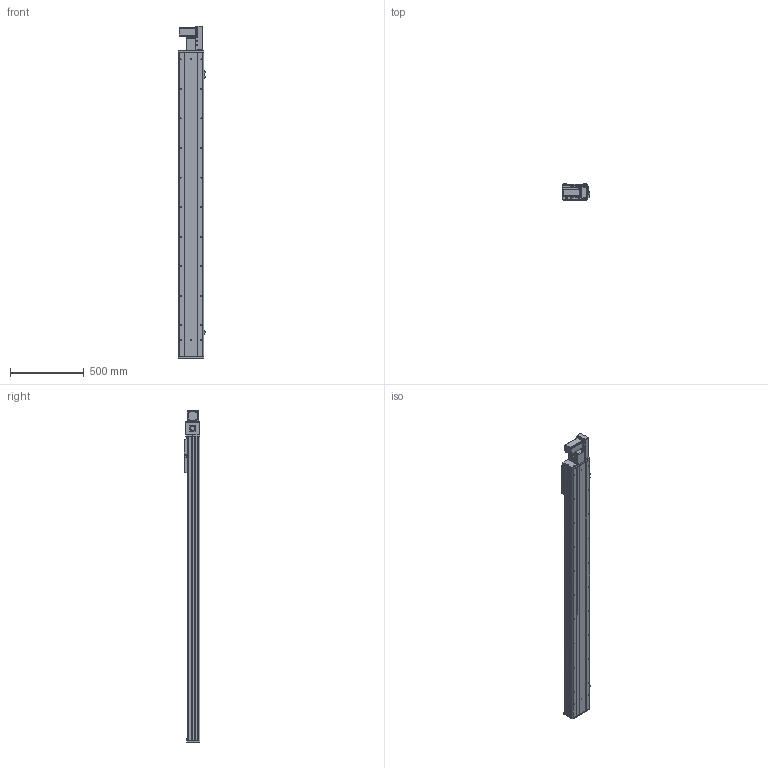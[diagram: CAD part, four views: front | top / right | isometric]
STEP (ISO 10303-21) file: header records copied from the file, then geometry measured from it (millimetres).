
FILE_DESCRIPTION (( 'STEP AP203' ), '1' );
FILE_NAME ('Y170CB-D105-S1750-BR-P400W.STEP', '2020-02-19T09:30:43', ( '微软用户' ), ( '微软中国' ), 'SwSTEP 2.0', 'SolidWorks 2017', '' );
FILE_SCHEMA (( 'CONFIG_CONTROL_DESIGN' ));
Length unit declared in the file: millimetre
Products named in the file (17): 70B喘謫眊----; B-源倛裔啣; 17B-耜蚾蟀諉啣----; 0B-萇儂楊擘啣; san松下电机400不带刹车----; Y70俋欶BR----; 70CB-掛极-; --70CB --喘謫眊楊擘啣-; 70CB-耜裔啣-; 70C--詩湍揤踡え-; 70CB--耜裔; 70C-雄赽釱-奻-; 0C--雄赽釱俋欶-170; 70CB-詩湍--; Y100-135俋离換覜ん--; Y170CB-陔俋离換覜結え---; Y170CB-D105-S1750-BR-P400W
Assembly tree (20 placements, depth 2):
  Y170CB-D105-S1750-BR-P400W
    70B喘謫眊----
    B-源倛裔啣
    17B-耜蚾蟀諉啣----
    0B-萇儂楊擘啣
    san松下电机400不带刹车----
    Y70俋欶BR----
    70CB-掛极-
    --70CB --喘謫眊楊擘啣-
    70CB-耜裔啣-  x2
    70C--詩湍揤踡え-  x2
    70CB--耜裔
    70C-雄赽釱-奻-
    0C--雄赽釱俋欶-170
    70CB-詩湍--
    Y100-135俋离換覜ん--  x3
    Y170CB-陔俋离換覜結え---
Bounding box: 183.5 x 107 x 2247 mm (x, y, z)
Volume: 9485072.4 mm3; surface area: 3409024 mm2
Topology: 20 solids, 20 shells, 1025 faces, 2753 edges, 1826 vertices
Faces by surface type: cylinder 539, plane 462, cone 24
Entity records: 32627 total; most frequent: CARTESIAN_POINT 6021, DIRECTION 5308, ORIENTED_EDGE 4988, EDGE_CURVE 2494, AXIS2_PLACEMENT_3D 1945, VERTEX_POINT 1656, VECTOR 1418, LINE 1418
